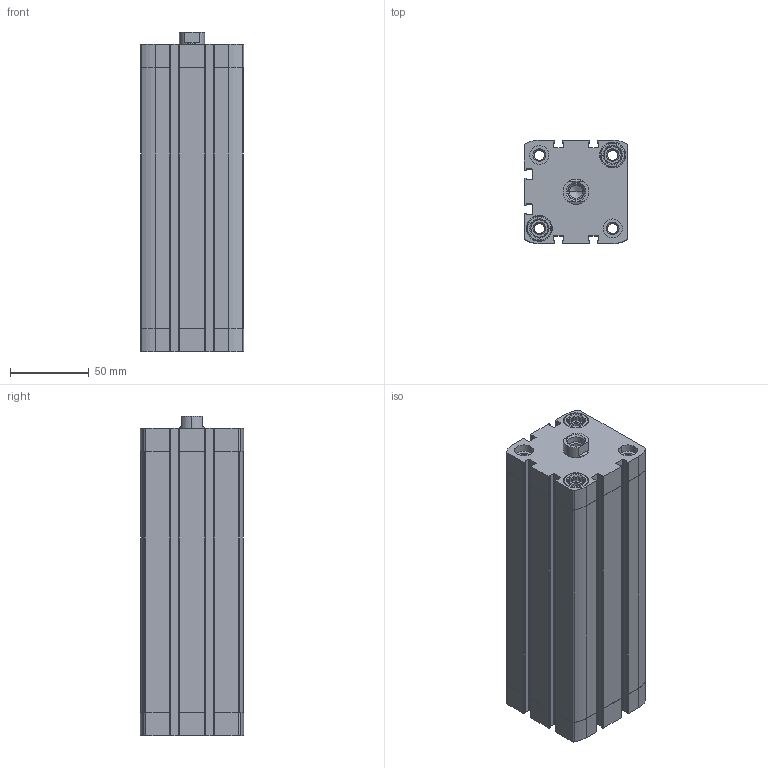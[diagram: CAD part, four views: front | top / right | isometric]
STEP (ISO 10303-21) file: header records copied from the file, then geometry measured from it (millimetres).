
FILE_DESCRIPTION (( 'STEP AP203' ), '1' );
FILE_NAME ('CCN50-150F.STEP', '2017-04-03T16:04:38', ( '' ), ( '' ), 'SwSTEP 2.0', 'SolidWorks 2016', '' );
FILE_SCHEMA (( 'CONFIG_CONTROL_DESIGN' ));
Length unit declared in the file: millimetre
Products named in the file (3): CCN-50---(Z); CCN-150_(KS); CCN50-150F
Assembly tree (2 placements, depth 2):
  CCN50-150F
    CCN-50---(Z)
    CCN-150_(KS)
Bounding box: 65.5 x 65.5 x 202.7 mm (x, y, z)
Volume: 484699.6 mm3; surface area: 136816.1 mm2
Topology: 2 solids, 2 shells, 471 faces, 1278 edges, 841 vertices
Faces by surface type: plane 219, cylinder 210, cone 42
Entity records: 15349 total; most frequent: CARTESIAN_POINT 2887, DIRECTION 2604, ORIENTED_EDGE 2552, EDGE_CURVE 1276, AXIS2_PLACEMENT_3D 950, VERTEX_POINT 841, LINE 704, VECTOR 704
